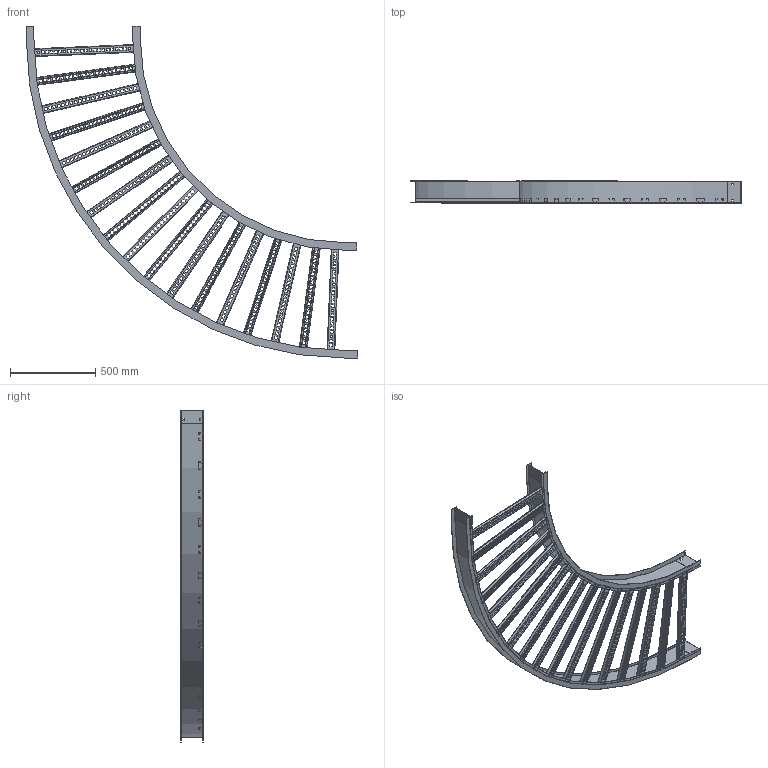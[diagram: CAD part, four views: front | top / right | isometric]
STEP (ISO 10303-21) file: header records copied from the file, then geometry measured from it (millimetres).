
FILE_DESCRIPTION((''),'2;1');
FILE_NAME('AHF524VHB9048_ASM','2010-01-27T',('erouzier'),(''),'PRO/ENGINEER BY PARAMETRIC TECHNOLOGY CORPORATION, 2008510','PRO/ENGINEER BY PARAMETRIC TECHNOLOGY CORPORATION, 2008510','');
FILE_SCHEMA(('CONFIG_CONTROL_DESIGN'));
Length unit declared in the file: inch
Products named in the file (4): CDS001811-5-90-48-I; CDS001811-5-90-72-O; CDS002159L24-P; AHF524VHB9048_ASM
Assembly tree (19 placements, depth 2):
  AHF524VHB9048_ASM
    CDS001811-5-90-48-I
    CDS001811-5-90-72-O
    CDS002159L24-P  x17
Bounding box: 1937.89 x 129.03 x 1941.96 mm (x, y, z)
Volume: 3602641 mm3; surface area: 4491822.3 mm2
Topology: 19 solids, 19 shells, 3586 faces, 10644 edges, 7096 vertices
Faces by surface type: plane 1891, cylinder 1695
Entity records: 10022 total; most frequent: CARTESIAN_POINT 1733, ORIENTED_EDGE 1704, DIRECTION 1700, EDGE_CURVE 852, VECTOR 630, LINE 630, VERTEX_POINT 568, AXIS2_PLACEMENT_3D 535
